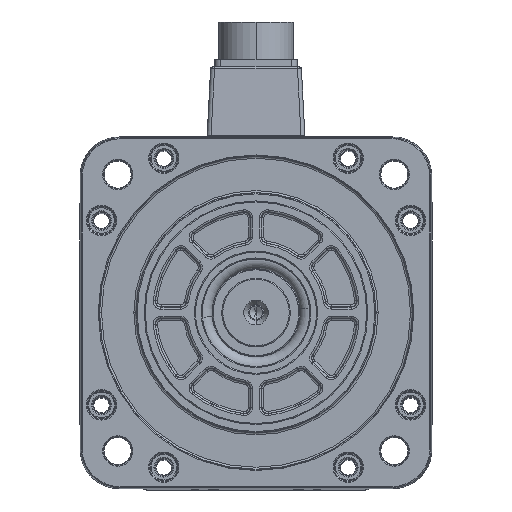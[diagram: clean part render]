
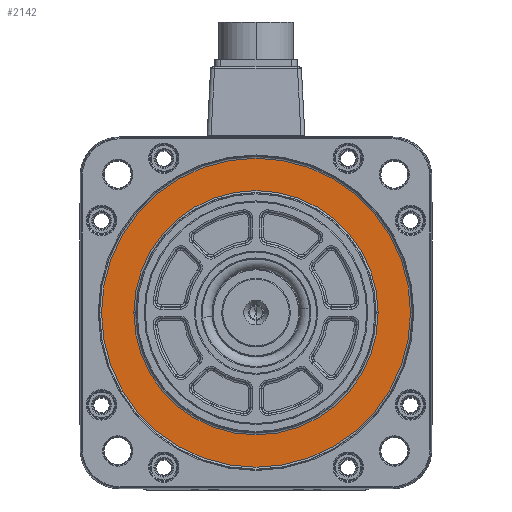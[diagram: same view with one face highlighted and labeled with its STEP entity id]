
A CAD part, top view. The second image highlights one B-rep face of the part: STEP entity #2142.
In plain terms, the highlighted planar face has unit normal (0, 0, 1).
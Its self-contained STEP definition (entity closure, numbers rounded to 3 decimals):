
#2142 = ADVANCED_FACE ( 'NONE', ( #81059, #79699 ), #80381, .T. ) ;
#5376 = DIRECTION ( 'NONE',  ( 1., 0., 0. ) ) ;
#7282 = DIRECTION ( 'NONE',  ( 1., 0., 0. ) ) ;
#7963 = DIRECTION ( 'NONE',  ( 0., 0., -1. ) ) ;
#11915 = VERTEX_POINT ( 'NONE', #118367 ) ;
#12373 = CARTESIAN_POINT ( 'NONE',  ( 0., 0., 15. ) ) ;
#14402 = AXIS2_PLACEMENT_3D ( 'NONE', #122875, #56817, #38643 ) ;
#17752 = CARTESIAN_POINT ( 'NONE',  ( -79.034, 0., 15. ) ) ;
#17796 = ORIENTED_EDGE ( 'NONE', *, *, #122220, .T. ) ;
#21922 = AXIS2_PLACEMENT_3D ( 'NONE', #12373, #95111, #31152 ) ;
#23708 = ORIENTED_EDGE ( 'NONE', *, *, #25643, .T. ) ;
#25643 = EDGE_CURVE ( 'NONE', #113150, #11915, #52926, .T. ) ;
#27471 = CARTESIAN_POINT ( 'NONE',  ( 0., 0., 15. ) ) ;
#29520 = EDGE_LOOP ( 'NONE', ( #116736, #17796 ) ) ;
#31152 = DIRECTION ( 'NONE',  ( 1., 0., 0. ) ) ;
#38643 = DIRECTION ( 'NONE',  ( 1., 0., 0. ) ) ;
#42496 = DIRECTION ( 'NONE',  ( 0., 0., -1. ) ) ;
#43505 = ORIENTED_EDGE ( 'NONE', *, *, #80614, .T. ) ;
#44571 = DIRECTION ( 'NONE',  ( 1., 0., 0. ) ) ;
#46291 = CARTESIAN_POINT ( 'NONE',  ( 62.466, 0., 15. ) ) ;
#50516 = DIRECTION ( 'NONE',  ( 0., 0., 1. ) ) ;
#52926 = CIRCLE ( 'NONE', #106266, 79.034 ) ;
#56817 = DIRECTION ( 'NONE',  ( 0., 0., 1. ) ) ;
#66397 = CIRCLE ( 'NONE', #21922, 79.034 ) ;
#79699 = FACE_BOUND ( 'NONE', #29520, .T. ) ;
#80381 = PLANE ( 'NONE',  #14402 ) ;
#80614 = EDGE_CURVE ( 'NONE', #11915, #113150, #66397, .T. ) ;
#81059 = FACE_OUTER_BOUND ( 'NONE', #126701, .T. ) ;
#91592 = CARTESIAN_POINT ( 'NONE',  ( 0., 0., 15. ) ) ;
#95111 = DIRECTION ( 'NONE',  ( 0., 0., 1. ) ) ;
#97421 = CARTESIAN_POINT ( 'NONE',  ( 0., 0., 15. ) ) ;
#104792 = VERTEX_POINT ( 'NONE', #46291 ) ;
#104951 = EDGE_CURVE ( 'NONE', #104792, #116472, #115406, .T. ) ;
#106266 = AXIS2_PLACEMENT_3D ( 'NONE', #91592, #50516, #5376 ) ;
#113150 = VERTEX_POINT ( 'NONE', #17752 ) ;
#115406 = CIRCLE ( 'NONE', #126538, 62.466 ) ;
#116472 = VERTEX_POINT ( 'NONE', #130296 ) ;
#116736 = ORIENTED_EDGE ( 'NONE', *, *, #104951, .T. ) ;
#118367 = CARTESIAN_POINT ( 'NONE',  ( 79.034, 0., 15. ) ) ;
#122220 = EDGE_CURVE ( 'NONE', #116472, #104792, #130896, .T. ) ;
#122875 = CARTESIAN_POINT ( 'NONE',  ( 0., 0., 15. ) ) ;
#126538 = AXIS2_PLACEMENT_3D ( 'NONE', #27471, #7963, #7282 ) ;
#126701 = EDGE_LOOP ( 'NONE', ( #43505, #23708 ) ) ;
#130296 = CARTESIAN_POINT ( 'NONE',  ( -62.466, 0., 15. ) ) ;
#130896 = CIRCLE ( 'NONE', #133070, 62.466 ) ;
#133070 = AXIS2_PLACEMENT_3D ( 'NONE', #97421, #42496, #44571 ) ;
